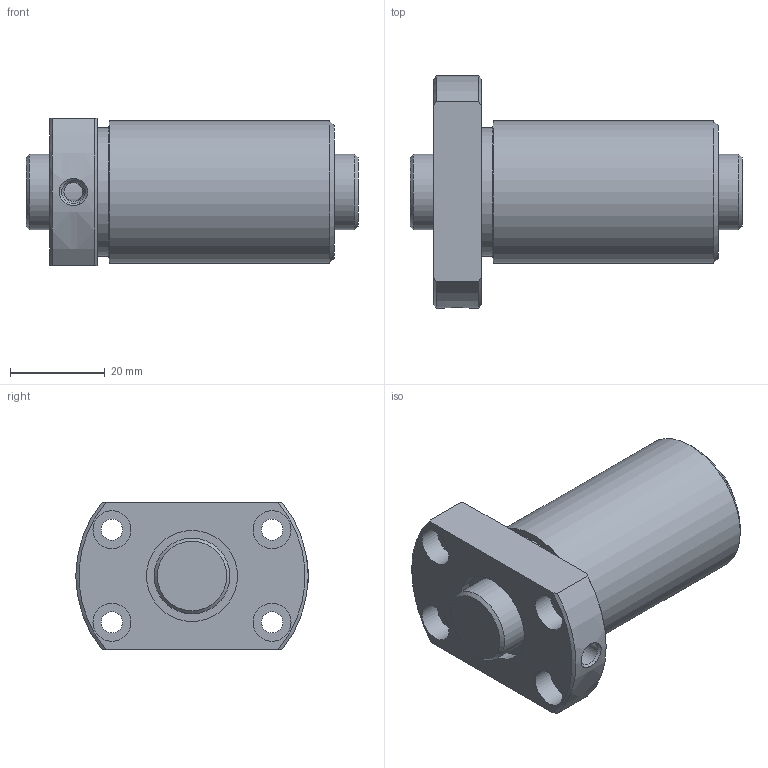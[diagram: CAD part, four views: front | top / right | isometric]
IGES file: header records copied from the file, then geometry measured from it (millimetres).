
Start section: Data from Parasolid IGES Translator 26.0.171, Copyright(c) 2006 Siemens PLM Software. All Rights Reserved.
Global section: file name: DIK1605-6RRG0+70LC0_000.igs; native system: By Siemens PLM Incorporated; preprocessor: XPlus GENERIC/IGES 26.0.171; author: Noname; organization: Noname; date: 20250113.094644; units: millimetre
Bounding box: 70 x 49 x 31 mm (x, y, z)
Surface area: 16476.4 mm2 (no closed solid volume)
Topology: 0 solids, 0 shells, 41 faces, 166 edges, 132 vertices
Faces by surface type: revolution 27, extrusion 14
